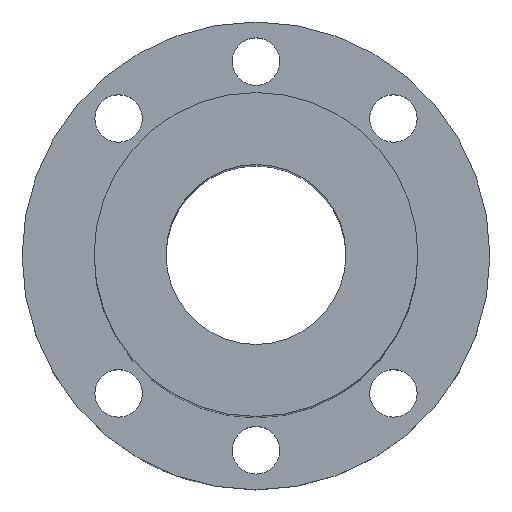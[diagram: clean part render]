
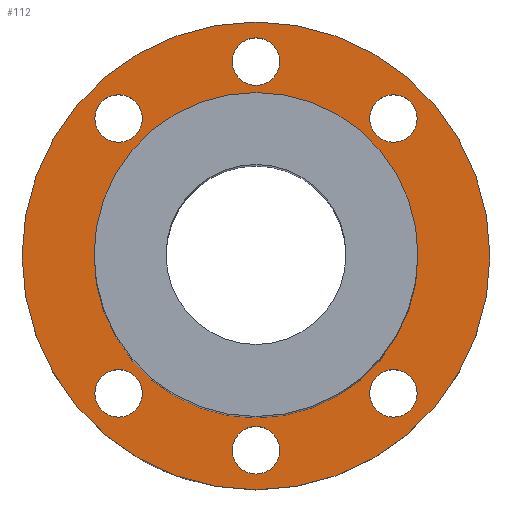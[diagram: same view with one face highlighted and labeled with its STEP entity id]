
A CAD part, top view. The second image highlights one B-rep face of the part: STEP entity #112.
In plain terms, the highlighted planar face has unit normal (0, 0, 1).
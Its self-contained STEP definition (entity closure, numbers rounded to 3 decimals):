
#99=PLANE('',#355);
#112=ADVANCED_FACE('',(#159,#160,#161,#162,#163,#164,#165,#166),#99,.T.);
#159=FACE_BOUND('',#203,.T.);
#160=FACE_BOUND('',#204,.T.);
#161=FACE_BOUND('',#205,.T.);
#162=FACE_BOUND('',#206,.T.);
#163=FACE_BOUND('',#207,.T.);
#164=FACE_BOUND('',#208,.T.);
#165=FACE_BOUND('',#209,.T.);
#166=FACE_BOUND('',#210,.T.);
#203=EDGE_LOOP('',(#247));
#204=EDGE_LOOP('',(#248));
#205=EDGE_LOOP('',(#249));
#206=EDGE_LOOP('',(#250));
#207=EDGE_LOOP('',(#251));
#208=EDGE_LOOP('',(#252));
#209=EDGE_LOOP('',(#253));
#210=EDGE_LOOP('',(#254));
#247=ORIENTED_EDGE('',*,*,#284,.T.);
#248=ORIENTED_EDGE('',*,*,#301,.T.);
#249=ORIENTED_EDGE('',*,*,#300,.F.);
#250=ORIENTED_EDGE('',*,*,#299,.T.);
#251=ORIENTED_EDGE('',*,*,#298,.F.);
#252=ORIENTED_EDGE('',*,*,#297,.F.);
#253=ORIENTED_EDGE('',*,*,#286,.T.);
#254=ORIENTED_EDGE('',*,*,#302,.T.);
#262=VERTEX_POINT('',#437);
#264=VERTEX_POINT('',#499);
#275=VERTEX_POINT('',#582);
#276=VERTEX_POINT('',#585);
#277=VERTEX_POINT('',#588);
#278=VERTEX_POINT('',#591);
#279=VERTEX_POINT('',#594);
#280=VERTEX_POINT('',#597);
#284=EDGE_CURVE('',#262,#262,#306,.T.);
#286=EDGE_CURVE('',#264,#264,#307,.T.);
#297=EDGE_CURVE('',#275,#275,#317,.T.);
#298=EDGE_CURVE('',#276,#276,#318,.T.);
#299=EDGE_CURVE('',#277,#277,#319,.T.);
#300=EDGE_CURVE('',#278,#278,#320,.T.);
#301=EDGE_CURVE('',#279,#279,#321,.T.);
#302=EDGE_CURVE('',#280,#280,#322,.T.);
#306=CIRCLE('',#327,32.5);
#307=CIRCLE('',#329,22.5);
#317=CIRCLE('',#343,3.3);
#318=CIRCLE('',#345,3.3);
#319=CIRCLE('',#347,3.3);
#320=CIRCLE('',#349,3.3);
#321=CIRCLE('',#351,3.3);
#322=CIRCLE('',#353,3.3);
#327=AXIS2_PLACEMENT_3D('',#436,#365,#366);
#329=AXIS2_PLACEMENT_3D('',#498,#369,#370);
#343=AXIS2_PLACEMENT_3D('',#581,#397,#398);
#345=AXIS2_PLACEMENT_3D('',#584,#401,#402);
#347=AXIS2_PLACEMENT_3D('',#587,#405,#406);
#349=AXIS2_PLACEMENT_3D('',#590,#409,#410);
#351=AXIS2_PLACEMENT_3D('',#593,#413,#414);
#353=AXIS2_PLACEMENT_3D('',#596,#417,#418);
#355=AXIS2_PLACEMENT_3D('',#599,#421,#422);
#365=DIRECTION('',(0.,0.,1.));
#366=DIRECTION('',(1.,0.,0.));
#369=DIRECTION('',(0.,0.,-1.));
#370=DIRECTION('',(1.,0.,0.));
#397=DIRECTION('',(0.,0.,1.));
#398=DIRECTION('',(1.,0.,0.));
#401=DIRECTION('',(0.,0.,1.));
#402=DIRECTION('',(-1.,0.,0.));
#405=DIRECTION('',(0.,0.,-1.));
#406=DIRECTION('',(-1.,0.,0.));
#409=DIRECTION('',(0.,0.,1.));
#410=DIRECTION('',(1.,0.,0.));
#413=DIRECTION('',(0.,0.,-1.));
#414=DIRECTION('',(1.,0.,0.));
#417=DIRECTION('',(0.,0.,-1.));
#418=DIRECTION('',(1.,0.,0.));
#421=DIRECTION('',(0.,0.,1.));
#422=DIRECTION('',(1.,0.,0.));
#436=CARTESIAN_POINT('',(0.,0.,10.));
#437=CARTESIAN_POINT('',(32.5,0.,10.));
#498=CARTESIAN_POINT('',(0.,0.,10.));
#499=CARTESIAN_POINT('',(22.5,0.,10.));
#581=CARTESIAN_POINT('',(0.,27.,10.));
#582=CARTESIAN_POINT('',(3.3,27.,10.));
#584=CARTESIAN_POINT('',(19.092,-19.092,10.));
#585=CARTESIAN_POINT('',(15.792,-19.092,10.));
#587=CARTESIAN_POINT('',(19.092,19.092,10.));
#588=CARTESIAN_POINT('',(15.792,19.092,10.));
#590=CARTESIAN_POINT('',(-19.092,19.092,10.));
#591=CARTESIAN_POINT('',(-15.792,19.092,10.));
#593=CARTESIAN_POINT('',(-19.092,-19.092,10.));
#594=CARTESIAN_POINT('',(-15.792,-19.092,10.));
#596=CARTESIAN_POINT('',(0.,-27.,10.));
#597=CARTESIAN_POINT('',(3.3,-27.,10.));
#599=CARTESIAN_POINT('',(-9.546,-9.546,10.));
